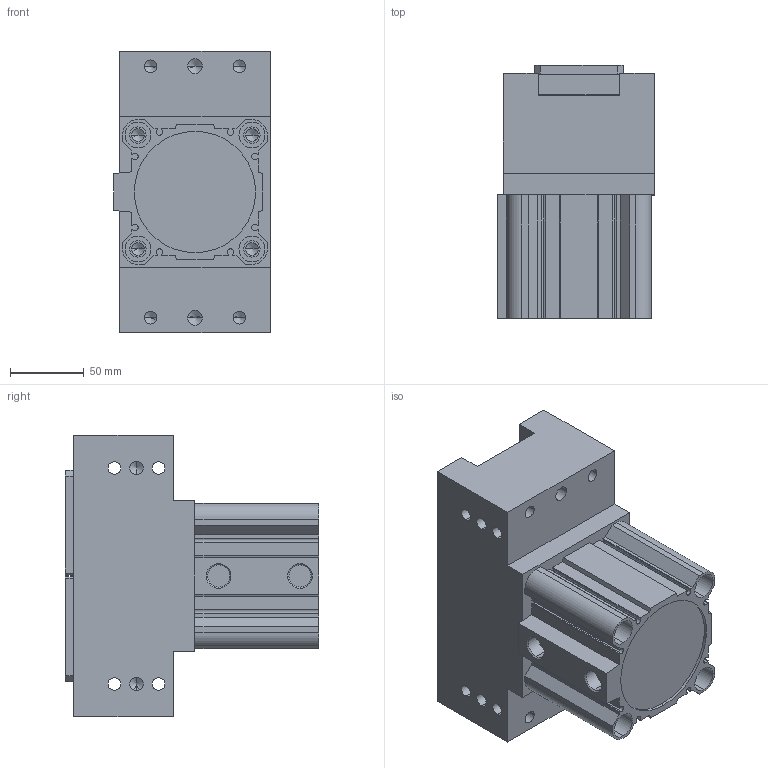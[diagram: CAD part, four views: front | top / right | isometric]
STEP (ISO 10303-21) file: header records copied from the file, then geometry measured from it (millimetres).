
FILE_DESCRIPTION (( 'STEP AP203' ), '1' );
FILE_NAME ('PPE-80-S.step', '2017-02-15T12:24:51', ( '' ), ( '' ), 'SwSTEP 2.0', 'SolidWorks 2012', '' );
FILE_SCHEMA (( 'CONFIG_CONTROL_DESIGN' ));
Length unit declared in the file: millimetre
Products named in the file (4): PPE-80-S; S-80-30; PPE80S-1; PPE80-2_Predeterminado<Como mecanizada>
Assembly tree (4 placements, depth 2):
  PPE-80-S
    PPE80-2_Predeterminado<Como mecanizada>  x2
    PPE80S-1
    S-80-30
Bounding box: 106 x 171 x 190 mm (x, y, z)
Volume: 1844430.7 mm3; surface area: 238863.7 mm2
Topology: 8 solids, 8 shells, 331 faces, 836 edges, 516 vertices
Faces by surface type: plane 155, cylinder 124, cone 52
Entity records: 8568 total; most frequent: DIRECTION 1464, CARTESIAN_POINT 1390, ORIENTED_EDGE 1336, EDGE_CURVE 668, AXIS2_PLACEMENT_3D 512, VECTOR 440, LINE 440, VERTEX_POINT 438
